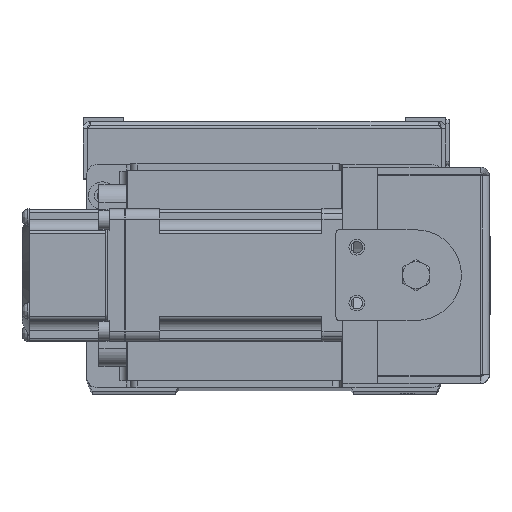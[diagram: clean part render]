
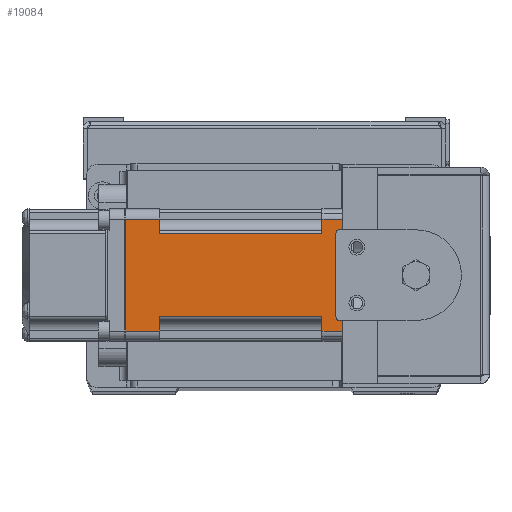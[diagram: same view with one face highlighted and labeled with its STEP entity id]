
A CAD part, top view. The second image highlights one B-rep face of the part: STEP entity #19084.
In plain terms, the highlighted planar face has unit normal (0, 0, 1) as drawn and (0, -1, 0) by its records, which use the part's own axes.
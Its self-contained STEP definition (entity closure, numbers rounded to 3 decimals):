
#205 = EDGE_CURVE ( 'NONE', #35038, #14979, #4964, .T. ) ;
#707 = EDGE_CURVE ( 'NONE', #26676, #37022, #15284, .T. ) ;
#1431 = LINE ( 'NONE', #12968, #32276 ) ;
#2201 = AXIS2_PLACEMENT_3D ( 'NONE', #13827, #30437, #25309 ) ;
#2354 = CARTESIAN_POINT ( 'NONE',  ( -6., -19., 11.85 ) ) ;
#2663 = CARTESIAN_POINT ( 'NONE',  ( -6., -19., 16. ) ) ;
#2774 = CARTESIAN_POINT ( 'NONE',  ( -6., -19., -16. ) ) ;
#3508 = ORIENTED_EDGE ( 'NONE', *, *, #18690, .T. ) ;
#3540 = DIRECTION ( 'NONE',  ( -1., 0., 0. ) ) ;
#4403 = CARTESIAN_POINT ( 'NONE',  ( -6., -19., 16. ) ) ;
#4452 = VERTEX_POINT ( 'NONE', #13273 ) ;
#4588 = PLANE ( 'NONE',  #2201 ) ;
#4650 = LINE ( 'NONE', #27287, #26429 ) ;
#4672 = VECTOR ( 'NONE', #11219, 1000. ) ;
#4964 = LINE ( 'NONE', #16111, #16312 ) ;
#5120 = CARTESIAN_POINT ( 'NONE',  ( -6., -19., -16. ) ) ;
#5326 = LINE ( 'NONE', #5508, #29033 ) ;
#5508 = CARTESIAN_POINT ( 'NONE',  ( 0., -19., -16. ) ) ;
#5603 = CARTESIAN_POINT ( 'NONE',  ( -6., -19., -16. ) ) ;
#6011 = LINE ( 'NONE', #29029, #28413 ) ;
#7240 = LINE ( 'NONE', #4403, #34814 ) ;
#7425 = ORIENTED_EDGE ( 'NONE', *, *, #24113, .T. ) ;
#8403 = VERTEX_POINT ( 'NONE', #26040 ) ;
#8944 = VERTEX_POINT ( 'NONE', #10284 ) ;
#9000 = CARTESIAN_POINT ( 'NONE',  ( 0., -19., -16. ) ) ;
#10284 = CARTESIAN_POINT ( 'NONE',  ( -52.5, -19., 11.85 ) ) ;
#10478 = VECTOR ( 'NONE', #11788, 1000. ) ;
#11219 = DIRECTION ( 'NONE',  ( 1., 0., 0. ) ) ;
#11490 = VECTOR ( 'NONE', #37142, 1000. ) ;
#11788 = DIRECTION ( 'NONE',  ( 0., 0., 1. ) ) ;
#12293 = EDGE_CURVE ( 'NONE', #24920, #25048, #25592, .T. ) ;
#12818 = CARTESIAN_POINT ( 'NONE',  ( -6., -19., -16. ) ) ;
#12968 = CARTESIAN_POINT ( 'NONE',  ( -6., -19., 11.85 ) ) ;
#13273 = CARTESIAN_POINT ( 'NONE',  ( -6., -19., -11.85 ) ) ;
#13767 = ORIENTED_EDGE ( 'NONE', *, *, #707, .T. ) ;
#13827 = CARTESIAN_POINT ( 'NONE',  ( -6., -19., -16. ) ) ;
#14465 = ORIENTED_EDGE ( 'NONE', *, *, #29362, .T. ) ;
#14754 = EDGE_CURVE ( 'NONE', #8944, #26676, #31980, .T. ) ;
#14979 = VERTEX_POINT ( 'NONE', #31883 ) ;
#15284 = LINE ( 'NONE', #17916, #27171 ) ;
#15644 = CARTESIAN_POINT ( 'NONE',  ( -62.48, -19., 16. ) ) ;
#16019 = DIRECTION ( 'NONE',  ( 0., 0., -1. ) ) ;
#16111 = CARTESIAN_POINT ( 'NONE',  ( -52.5, -19., -16. ) ) ;
#16312 = VECTOR ( 'NONE', #27609, 1000. ) ;
#16715 = VERTEX_POINT ( 'NONE', #2663 ) ;
#16846 = EDGE_CURVE ( 'NONE', #4452, #24920, #33565, .T. ) ;
#16997 = DIRECTION ( 'NONE',  ( 0., 0., -1. ) ) ;
#17539 = CARTESIAN_POINT ( 'NONE',  ( -62.48, -19., -16. ) ) ;
#17916 = CARTESIAN_POINT ( 'NONE',  ( -6., -19., 16. ) ) ;
#18256 = ORIENTED_EDGE ( 'NONE', *, *, #30829, .T. ) ;
#18690 = EDGE_CURVE ( 'NONE', #32521, #35038, #22525, .T. ) ;
#19084 = ADVANCED_FACE ( 'NONE', ( #30801 ), #4588, .T. ) ;
#19439 = EDGE_LOOP ( 'NONE', ( #22395, #13767, #21973, #3508, #27956, #24556, #36463, #26276, #7425, #18256, #14465, #24231 ) ) ;
#20990 = EDGE_CURVE ( 'NONE', #14979, #4452, #4650, .T. ) ;
#21973 = ORIENTED_EDGE ( 'NONE', *, *, #24739, .T. ) ;
#22395 = ORIENTED_EDGE ( 'NONE', *, *, #14754, .T. ) ;
#22525 = LINE ( 'NONE', #37097, #4672 ) ;
#23005 = LINE ( 'NONE', #5120, #28704 ) ;
#24113 = EDGE_CURVE ( 'NONE', #25048, #8403, #5326, .T. ) ;
#24231 = ORIENTED_EDGE ( 'NONE', *, *, #28466, .T. ) ;
#24450 = DIRECTION ( 'NONE',  ( 1., 0., 0. ) ) ;
#24556 = ORIENTED_EDGE ( 'NONE', *, *, #20990, .T. ) ;
#24739 = EDGE_CURVE ( 'NONE', #37022, #32521, #6011, .T. ) ;
#24920 = VERTEX_POINT ( 'NONE', #5603 ) ;
#25048 = VERTEX_POINT ( 'NONE', #9000 ) ;
#25309 = DIRECTION ( 'NONE',  ( 0., 0., -1. ) ) ;
#25502 = DIRECTION ( 'NONE',  ( 0., 0., 1. ) ) ;
#25592 = LINE ( 'NONE', #2774, #11490 ) ;
#26040 = CARTESIAN_POINT ( 'NONE',  ( 0., -19., 16. ) ) ;
#26276 = ORIENTED_EDGE ( 'NONE', *, *, #12293, .T. ) ;
#26429 = VECTOR ( 'NONE', #24450, 1000. ) ;
#26676 = VERTEX_POINT ( 'NONE', #31930 ) ;
#27171 = VECTOR ( 'NONE', #29981, 1000. ) ;
#27287 = CARTESIAN_POINT ( 'NONE',  ( -6., -19., -11.85 ) ) ;
#27452 = VECTOR ( 'NONE', #16019, 1000. ) ;
#27543 = VERTEX_POINT ( 'NONE', #2354 ) ;
#27609 = DIRECTION ( 'NONE',  ( 0., 0., 1. ) ) ;
#27956 = ORIENTED_EDGE ( 'NONE', *, *, #205, .T. ) ;
#28413 = VECTOR ( 'NONE', #35286, 1000. ) ;
#28466 = EDGE_CURVE ( 'NONE', #27543, #8944, #1431, .T. ) ;
#28704 = VECTOR ( 'NONE', #16997, 1000. ) ;
#29029 = CARTESIAN_POINT ( 'NONE',  ( -62.48, -19., -16. ) ) ;
#29033 = VECTOR ( 'NONE', #25502, 1000. ) ;
#29362 = EDGE_CURVE ( 'NONE', #16715, #27543, #23005, .T. ) ;
#29699 = CARTESIAN_POINT ( 'NONE',  ( -52.5, -19., -16. ) ) ;
#29981 = DIRECTION ( 'NONE',  ( -1., 0., 0. ) ) ;
#30437 = DIRECTION ( 'NONE',  ( 0., -1., 0. ) ) ;
#30632 = DIRECTION ( 'NONE',  ( -1., 0., 0. ) ) ;
#30801 = FACE_OUTER_BOUND ( 'NONE', #19439, .T. ) ;
#30829 = EDGE_CURVE ( 'NONE', #8403, #16715, #7240, .T. ) ;
#31883 = CARTESIAN_POINT ( 'NONE',  ( -52.5, -19., -11.85 ) ) ;
#31930 = CARTESIAN_POINT ( 'NONE',  ( -52.5, -19., 16. ) ) ;
#31980 = LINE ( 'NONE', #29699, #10478 ) ;
#32276 = VECTOR ( 'NONE', #3540, 1000. ) ;
#32521 = VERTEX_POINT ( 'NONE', #17539 ) ;
#33565 = LINE ( 'NONE', #12818, #27452 ) ;
#34814 = VECTOR ( 'NONE', #30632, 1000. ) ;
#35038 = VERTEX_POINT ( 'NONE', #37267 ) ;
#35286 = DIRECTION ( 'NONE',  ( 0., 0., -1. ) ) ;
#36463 = ORIENTED_EDGE ( 'NONE', *, *, #16846, .T. ) ;
#37022 = VERTEX_POINT ( 'NONE', #15644 ) ;
#37097 = CARTESIAN_POINT ( 'NONE',  ( -6., -19., -16. ) ) ;
#37142 = DIRECTION ( 'NONE',  ( 1., 0., 0. ) ) ;
#37267 = CARTESIAN_POINT ( 'NONE',  ( -52.5, -19., -16. ) ) ;
